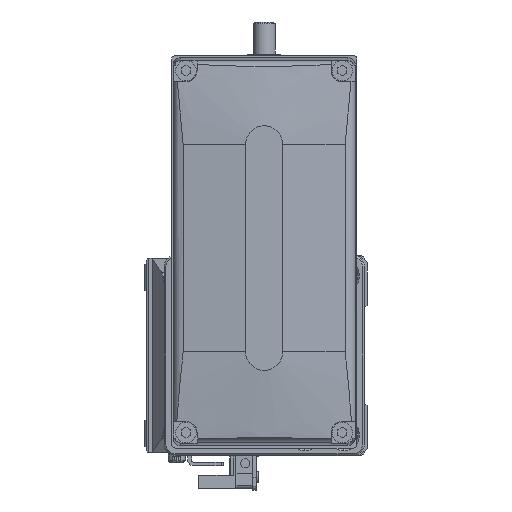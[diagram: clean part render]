
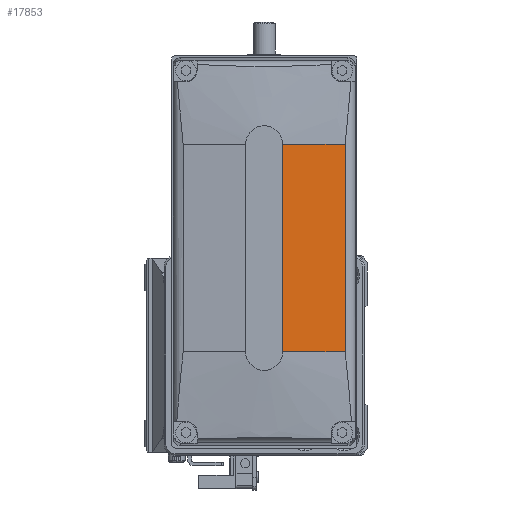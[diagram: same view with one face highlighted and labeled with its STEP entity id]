
A CAD part, left-side view. The second image highlights one B-rep face of the part: STEP entity #17853.
In plain terms, the highlighted planar face has unit normal (-0.996, -0.087, 0) as drawn and (-0.996, 0, -0.087) by its records, which use the part's own axes.
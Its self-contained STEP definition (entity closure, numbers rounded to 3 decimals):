
#2566 = DIRECTION ( 'NONE',  ( 0., 1., 0. ) ) ;
#4772 = CARTESIAN_POINT ( 'NONE',  ( -50., 128., -5. ) ) ;
#5502 = CARTESIAN_POINT ( 'NONE',  ( -50., -28., -5. ) ) ;
#5564 = VECTOR ( 'NONE', #28257, 1000. ) ;
#5686 = CARTESIAN_POINT ( 'NONE',  ( -48.525, 128., -21.861 ) ) ;
#7194 = EDGE_CURVE ( 'NONE', #15405, #12854, #13368, .T. ) ;
#9611 = AXIS2_PLACEMENT_3D ( 'NONE', #29477, #21013, #26736 ) ;
#9938 = FACE_OUTER_BOUND ( 'NONE', #21265, .T. ) ;
#11212 = VECTOR ( 'NONE', #13547, 1000. ) ;
#11463 = CARTESIAN_POINT ( 'NONE',  ( -48.525, 28., -21.861 ) ) ;
#12854 = VERTEX_POINT ( 'NONE', #22191 ) ;
#13126 = EDGE_CURVE ( 'NONE', #31955, #35571, #15794, .T. ) ;
#13368 = LINE ( 'NONE', #4772, #5564 ) ;
#13547 = DIRECTION ( 'NONE',  ( -0.087, 0., 0.996 ) ) ;
#15405 = VERTEX_POINT ( 'NONE', #5502 ) ;
#15487 = CARTESIAN_POINT ( 'NONE',  ( 43606.406, -28., -499000. ) ) ;
#15794 = LINE ( 'NONE', #5686, #28772 ) ;
#16162 = ORIENTED_EDGE ( 'NONE', *, *, #22435, .F. ) ;
#17853 = ADVANCED_FACE ( 'NONE', ( #9938 ), #23880, .T. ) ;
#18917 = ORIENTED_EDGE ( 'NONE', *, *, #26290, .F. ) ;
#21013 = DIRECTION ( 'NONE',  ( -0.996, 0., -0.087 ) ) ;
#21265 = EDGE_LOOP ( 'NONE', ( #18917, #27411, #16162, #22017 ) ) ;
#22017 = ORIENTED_EDGE ( 'NONE', *, *, #7194, .T. ) ;
#22191 = CARTESIAN_POINT ( 'NONE',  ( -50., 28., -5. ) ) ;
#22435 = EDGE_CURVE ( 'NONE', #15405, #31955, #28600, .T. ) ;
#23880 = PLANE ( 'NONE',  #9611 ) ;
#26290 = EDGE_CURVE ( 'NONE', #35571, #12854, #34327, .T. ) ;
#26736 = DIRECTION ( 'NONE',  ( -0.087, 0., 0.996 ) ) ;
#27147 = DIRECTION ( 'NONE',  ( 0.087, 0., -0.996 ) ) ;
#27411 = ORIENTED_EDGE ( 'NONE', *, *, #13126, .F. ) ;
#28123 = VECTOR ( 'NONE', #27147, 1000. ) ;
#28257 = DIRECTION ( 'NONE',  ( 0., 1., 0. ) ) ;
#28295 = CARTESIAN_POINT ( 'NONE',  ( 43606.406, 28., -499000. ) ) ;
#28600 = LINE ( 'NONE', #15487, #28123 ) ;
#28772 = VECTOR ( 'NONE', #2566, 1000. ) ;
#29477 = CARTESIAN_POINT ( 'NONE',  ( -50., 128., -5. ) ) ;
#31771 = CARTESIAN_POINT ( 'NONE',  ( -48.525, -28., -21.861 ) ) ;
#31955 = VERTEX_POINT ( 'NONE', #31771 ) ;
#34327 = LINE ( 'NONE', #28295, #11212 ) ;
#35571 = VERTEX_POINT ( 'NONE', #11463 ) ;
